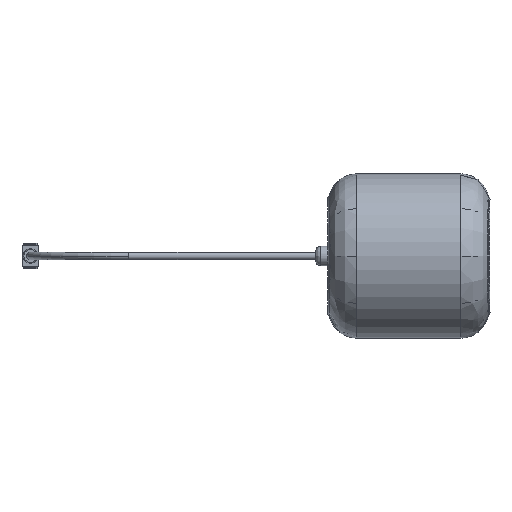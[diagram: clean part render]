
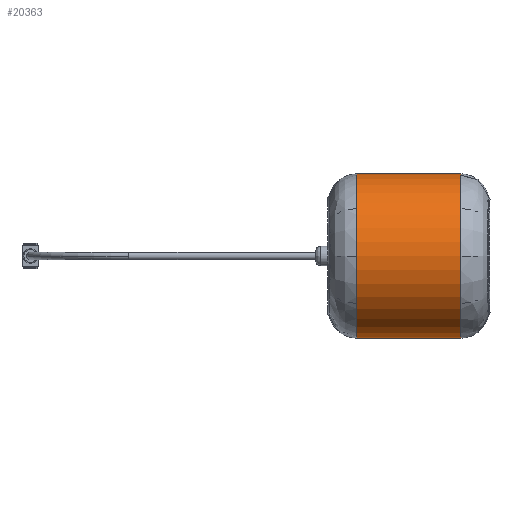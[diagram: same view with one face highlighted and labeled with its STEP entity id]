
A CAD part, left-side view. The second image highlights one B-rep face of the part: STEP entity #20363.
In plain terms, the highlighted cylindrical face has radius 83.5 mm (diameter 167 mm), a partial arc.
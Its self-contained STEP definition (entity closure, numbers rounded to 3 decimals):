
#7 = DIRECTION ( 'NONE',  ( 0., 0., -1. ) ) ;
#338 = EDGE_CURVE ( 'NONE', #2866, #14688, #23812, .T. ) ;
#2866 = VERTEX_POINT ( 'NONE', #7300 ) ;
#3991 = CIRCLE ( 'NONE', #11542, 83.5 ) ;
#4368 = DIRECTION ( 'NONE',  ( 0., 1., 0. ) ) ;
#5901 = AXIS2_PLACEMENT_3D ( 'NONE', #6352, #24440, #7 ) ;
#6352 = CARTESIAN_POINT ( 'NONE',  ( 0., 0., 0. ) ) ;
#6658 = ORIENTED_EDGE ( 'NONE', *, *, #338, .T. ) ;
#7300 = CARTESIAN_POINT ( 'NONE',  ( 0., 130.505, -83.5 ) ) ;
#7386 = VECTOR ( 'NONE', #28215, 1000. ) ;
#9165 = ORIENTED_EDGE ( 'NONE', *, *, #21404, .T. ) ;
#9405 = CARTESIAN_POINT ( 'NONE',  ( 0., 0., 83.5 ) ) ;
#9736 = CARTESIAN_POINT ( 'NONE',  ( 0., 130.505, 83.5 ) ) ;
#10012 = VERTEX_POINT ( 'NONE', #9736 ) ;
#11542 = AXIS2_PLACEMENT_3D ( 'NONE', #24372, #4368, #29055 ) ;
#12234 = ORIENTED_EDGE ( 'NONE', *, *, #20120, .T. ) ;
#12472 = DIRECTION ( 'NONE',  ( 0., -1., 0. ) ) ;
#14247 = AXIS2_PLACEMENT_3D ( 'NONE', #21136, #12472, #20993 ) ;
#14688 = VERTEX_POINT ( 'NONE', #23111 ) ;
#15660 = VECTOR ( 'NONE', #25403, 1000. ) ;
#15913 = VERTEX_POINT ( 'NONE', #25615 ) ;
#17067 = CIRCLE ( 'NONE', #14247, 83.5 ) ;
#17979 = FACE_OUTER_BOUND ( 'NONE', #21294, .T. ) ;
#18807 = LINE ( 'NONE', #9405, #15660 ) ;
#19633 = ORIENTED_EDGE ( 'NONE', *, *, #23282, .F. ) ;
#20120 = EDGE_CURVE ( 'NONE', #14688, #15913, #3991, .T. ) ;
#20363 = ADVANCED_FACE ( 'NONE', ( #17979 ), #24738, .T. ) ;
#20993 = DIRECTION ( 'NONE',  ( 0., 0., -1. ) ) ;
#21136 = CARTESIAN_POINT ( 'NONE',  ( 0., 130.505, 0. ) ) ;
#21294 = EDGE_LOOP ( 'NONE', ( #19633, #9165, #6658, #12234 ) ) ;
#21404 = EDGE_CURVE ( 'NONE', #10012, #2866, #17067, .T. ) ;
#23111 = CARTESIAN_POINT ( 'NONE',  ( 0., 24.495, -83.5 ) ) ;
#23282 = EDGE_CURVE ( 'NONE', #10012, #15913, #18807, .T. ) ;
#23812 = LINE ( 'NONE', #26155, #7386 ) ;
#24372 = CARTESIAN_POINT ( 'NONE',  ( 0., 24.495, 0. ) ) ;
#24440 = DIRECTION ( 'NONE',  ( 0., -1., 0. ) ) ;
#24738 = CYLINDRICAL_SURFACE ( 'NONE', #5901, 83.5 ) ;
#25403 = DIRECTION ( 'NONE',  ( 0., -1., 0. ) ) ;
#25615 = CARTESIAN_POINT ( 'NONE',  ( 0., 24.495, 83.5 ) ) ;
#26155 = CARTESIAN_POINT ( 'NONE',  ( 0., 0., -83.5 ) ) ;
#28215 = DIRECTION ( 'NONE',  ( 0., -1., 0. ) ) ;
#29055 = DIRECTION ( 'NONE',  ( 0., 0., -1. ) ) ;
